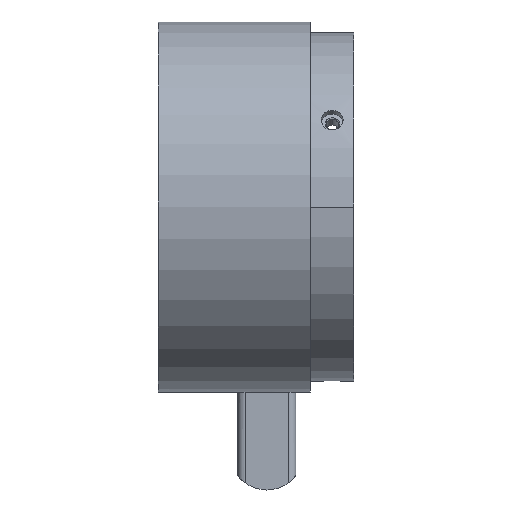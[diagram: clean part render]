
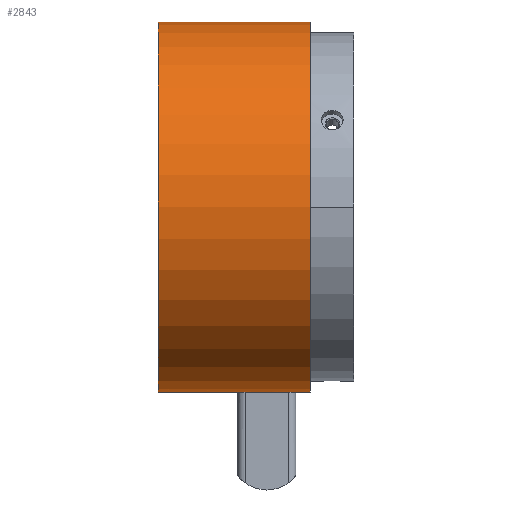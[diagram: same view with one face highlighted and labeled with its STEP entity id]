
A CAD part, left-side view. The second image highlights one B-rep face of the part: STEP entity #2843.
In plain terms, the highlighted cylindrical face has radius 161.925 mm (diameter 323.85 mm), a partial arc.
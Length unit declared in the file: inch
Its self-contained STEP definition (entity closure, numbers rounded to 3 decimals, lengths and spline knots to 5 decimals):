
#311 = CARTESIAN_POINT ( 'NONE',  ( -0.27207, 1.09304, -6.3692 ) ) ;
#325 = CARTESIAN_POINT ( 'NONE',  ( -0.19151, 1.00092, -6.37215 ) ) ;
#344 = CARTESIAN_POINT ( 'NONE',  ( -0.29346, 1.1395, -6.36824 ) ) ;
#512 = VERTEX_POINT ( 'NONE', #1207 ) ;
#605 = ORIENTED_EDGE ( 'NONE', *, *, #5702, .T. ) ;
#655 = LINE ( 'NONE', #5243, #2774 ) ;
#759 = DIRECTION ( 'NONE',  ( 0., 0., 1. ) ) ;
#765 = LINE ( 'NONE', #3772, #5827 ) ;
#775 = CARTESIAN_POINT ( 'NONE',  ( 0., -0.25, -6.375 ) ) ;
#847 = CARTESIAN_POINT ( 'NONE',  ( -0.30275, 1.33159, -6.36781 ) ) ;
#862 = CARTESIAN_POINT ( 'NONE',  ( 0., -0.25, 6.375 ) ) ;
#869 = CARTESIAN_POINT ( 'NONE',  ( -0.30538, 1.1789, -6.36768 ) ) ;
#892 = CARTESIAN_POINT ( 'NONE',  ( -0.31337, 1.22929, -6.36729 ) ) ;
#948 = EDGE_CURVE ( 'NONE', #5209, #6009, #765, .T. ) ;
#1207 = CARTESIAN_POINT ( 'NONE',  ( 0., 5., 6.375 ) ) ;
#1208 = CARTESIAN_POINT ( 'NONE',  ( 0., 5., 0. ) ) ;
#1315 = CARTESIAN_POINT ( 'NONE',  ( -0.23614, 1.04283, -6.37064 ) ) ;
#1338 = CARTESIAN_POINT ( 'NONE',  ( -0.30291, 1.16897, -6.3678 ) ) ;
#1348 = DIRECTION ( 'NONE',  ( 0., 1., 0. ) ) ;
#1374 = CARTESIAN_POINT ( 'NONE',  ( -0.20727, 1.0139, -6.37165 ) ) ;
#1400 = CARTESIAN_POINT ( 'NONE',  ( 0., 1.5636, -6.375 ) ) ;
#1449 = VECTOR ( 'NONE', #5618, 39.37008 ) ;
#1694 = ORIENTED_EDGE ( 'NONE', *, *, #1945, .T. ) ;
#1752 = CYLINDRICAL_SURFACE ( 'NONE', #1962, 6.375 ) ;
#1773 = CARTESIAN_POINT ( 'NONE',  ( -0.28115, 1.3889, -6.3688 ) ) ;
#1794 = CARTESIAN_POINT ( 'NONE',  ( -0.27148, 1.40698, -6.36922 ) ) ;
#1813 = CARTESIAN_POINT ( 'NONE',  ( -0.07155, 0.94451, -6.37461 ) ) ;
#1832 = CARTESIAN_POINT ( 'NONE',  ( -0.15696, 0.97837, -6.37307 ) ) ;
#1854 = CARTESIAN_POINT ( 'NONE',  ( -0.12042, 0.95993, -6.37388 ) ) ;
#1898 = FACE_OUTER_BOUND ( 'NONE', #6023, .T. ) ;
#1945 = EDGE_CURVE ( 'NONE', #4159, #512, #655, .T. ) ;
#1962 = AXIS2_PLACEMENT_3D ( 'NONE', #2039, #5440, #5419 ) ;
#2039 = CARTESIAN_POINT ( 'NONE',  ( 0., -0.25, 0. ) ) ;
#2049 = AXIS2_PLACEMENT_3D ( 'NONE', #4599, #2137, #759 ) ;
#2137 = DIRECTION ( 'NONE',  ( 0., 1., 0. ) ) ;
#2258 = CARTESIAN_POINT ( 'NONE',  ( -0.04106, 1.56157, -6.3749 ) ) ;
#2276 = CARTESIAN_POINT ( 'NONE',  ( -0.04118, 0.93843, -6.3749 ) ) ;
#2331 = CARTESIAN_POINT ( 'NONE',  ( -0.0207, 1.5636, -6.375 ) ) ;
#2466 = EDGE_CURVE ( 'NONE', #5178, #6009, #3151, .T. ) ;
#2764 = CARTESIAN_POINT ( 'NONE',  ( -0.07109, 1.5556, -6.37461 ) ) ;
#2774 = VECTOR ( 'NONE', #6241, 39.37008 ) ;
#2784 = CARTESIAN_POINT ( 'NONE',  ( -0.26615, 1.41588, -6.36944 ) ) ;
#2785 = CARTESIAN_POINT ( 'NONE',  ( 0., -0.25, -6.375 ) ) ;
#2825 = CARTESIAN_POINT ( 'NONE',  ( -0.2071, 1.48624, -6.37165 ) ) ;
#2843 = ADVANCED_FACE ( 'NONE', ( #1898 ), #1752, .T. ) ;
#3151 = B_SPLINE_CURVE_WITH_KNOTS ( 'NONE', 3,
 ( #4163, #2331, #2258, #2764, #5692, #3763, #6136, #3730, #6173, #5196, #2825, #4717, #5734, #2784, #1794, #1773, #6195, #3805, #847, #4245, #6155, #3223, #892, #3784, #869, #1338, #3272, #344, #4265, #311, #3248, #1315, #1374, #325, #4284, #1832, #3314, #1854, #4731, #4751, #1813, #2276, #3747, #5675 ),
 .UNSPECIFIED., .F., .F.,
 ( 4, 2, 2, 2, 2, 2, 2, 2, 1, 2, 2, 2, 2, 2, 2, 2, 2, 2, 2, 1, 2, 2, 4 ),
 ( 0.02488, 0.02644, 0.02721, 0.02799, 0.02955, 0.0311, 0.03266, 0.03343, 0.03421, 0.03499, 0.03577, 0.03732, 0.03888, 0.03966, 0.04043, 0.04199, 0.04354, 0.0451, 0.04588, 0.04665, 0.04743, 0.04821, 0.04976 ),
 .UNSPECIFIED. ) ;
#3156 = DIRECTION ( 'NONE',  ( 0., 0., 1. ) ) ;
#3166 = CARTESIAN_POINT ( 'NONE',  ( 0., 0.9364, -6.375 ) ) ;
#3223 = CARTESIAN_POINT ( 'NONE',  ( -0.31337, 1.2707, -6.36729 ) ) ;
#3248 = CARTESIAN_POINT ( 'NONE',  ( -0.24936, 1.05897, -6.37013 ) ) ;
#3272 = CARTESIAN_POINT ( 'NONE',  ( -0.29695, 1.14929, -6.36808 ) ) ;
#3314 = CARTESIAN_POINT ( 'NONE',  ( -0.13888, 0.96869, -6.37349 ) ) ;
#3421 = EDGE_CURVE ( 'NONE', #5178, #4622, #3670, .T. ) ;
#3546 = ORIENTED_EDGE ( 'NONE', *, *, #5635, .T. ) ;
#3550 = CIRCLE ( 'NONE', #2049, 6.375 ) ;
#3622 = ORIENTED_EDGE ( 'NONE', *, *, #2466, .T. ) ;
#3670 = LINE ( 'NONE', #775, #1449 ) ;
#3730 = CARTESIAN_POINT ( 'NONE',  ( -0.13894, 1.53185, -6.37351 ) ) ;
#3747 = CARTESIAN_POINT ( 'NONE',  ( -0.0207, 0.9364, -6.375 ) ) ;
#3763 = CARTESIAN_POINT ( 'NONE',  ( -0.1007, 1.54715, -6.37421 ) ) ;
#3772 = CARTESIAN_POINT ( 'NONE',  ( 0., -0.25, -6.375 ) ) ;
#3784 = CARTESIAN_POINT ( 'NONE',  ( -0.31134, 1.20894, -6.36739 ) ) ;
#3805 = CARTESIAN_POINT ( 'NONE',  ( -0.29678, 1.3512, -6.36809 ) ) ;
#4159 = VERTEX_POINT ( 'NONE', #862 ) ;
#4163 = CARTESIAN_POINT ( 'NONE',  ( 0., 1.5636, -6.375 ) ) ;
#4245 = CARTESIAN_POINT ( 'NONE',  ( -0.30528, 1.32155, -6.36769 ) ) ;
#4265 = CARTESIAN_POINT ( 'NONE',  ( -0.28168, 1.11104, -6.36878 ) ) ;
#4284 = CARTESIAN_POINT ( 'NONE',  ( -0.16585, 0.98372, -6.37285 ) ) ;
#4599 = CARTESIAN_POINT ( 'NONE',  ( 0., -0.25, 0. ) ) ;
#4622 = VERTEX_POINT ( 'NONE', #6055 ) ;
#4717 = CARTESIAN_POINT ( 'NONE',  ( -0.236, 1.45733, -6.37065 ) ) ;
#4731 = CARTESIAN_POINT ( 'NONE',  ( -0.1012, 0.95302, -6.3742 ) ) ;
#4751 = CARTESIAN_POINT ( 'NONE',  ( -0.08159, 0.94704, -6.37449 ) ) ;
#4841 = CIRCLE ( 'NONE', #5433, 6.375 ) ;
#4992 = ORIENTED_EDGE ( 'NONE', *, *, #948, .F. ) ;
#5178 = VERTEX_POINT ( 'NONE', #1400 ) ;
#5196 = CARTESIAN_POINT ( 'NONE',  ( -0.19099, 1.49948, -6.37216 ) ) ;
#5209 = VERTEX_POINT ( 'NONE', #2785 ) ;
#5243 = CARTESIAN_POINT ( 'NONE',  ( 0., -0.25, 6.375 ) ) ;
#5419 = DIRECTION ( 'NONE',  ( 0., 0., 1. ) ) ;
#5433 = AXIS2_PLACEMENT_3D ( 'NONE', #1208, #5999, #3156 ) ;
#5440 = DIRECTION ( 'NONE',  ( 0., 1., 0. ) ) ;
#5443 = ORIENTED_EDGE ( 'NONE', *, *, #3421, .F. ) ;
#5618 = DIRECTION ( 'NONE',  ( 0., 1., 0. ) ) ;
#5635 = EDGE_CURVE ( 'NONE', #512, #4622, #4841, .T. ) ;
#5675 = CARTESIAN_POINT ( 'NONE',  ( 0., 0.9364, -6.375 ) ) ;
#5692 = CARTESIAN_POINT ( 'NONE',  ( -0.08102, 1.55312, -6.37449 ) ) ;
#5702 = EDGE_CURVE ( 'NONE', #5209, #4159, #3550, .T. ) ;
#5734 = CARTESIAN_POINT ( 'NONE',  ( -0.24897, 1.44156, -6.37015 ) ) ;
#5827 = VECTOR ( 'NONE', #1348, 39.37008 ) ;
#5999 = DIRECTION ( 'NONE',  ( 0., -1., 0. ) ) ;
#6009 = VERTEX_POINT ( 'NONE', #3166 ) ;
#6023 = EDGE_LOOP ( 'NONE', ( #4992, #605, #1694, #3546, #5443, #3622 ) ) ;
#6055 = CARTESIAN_POINT ( 'NONE',  ( 0., 5., -6.375 ) ) ;
#6136 = CARTESIAN_POINT ( 'NONE',  ( -0.11049, 1.54365, -6.37405 ) ) ;
#6155 = CARTESIAN_POINT ( 'NONE',  ( -0.31135, 1.29117, -6.36739 ) ) ;
#6173 = CARTESIAN_POINT ( 'NONE',  ( -0.15693, 1.52222, -6.37309 ) ) ;
#6195 = CARTESIAN_POINT ( 'NONE',  ( -0.28988, 1.37043, -6.36841 ) ) ;
#6241 = DIRECTION ( 'NONE',  ( 0., 1., 0. ) ) ;
